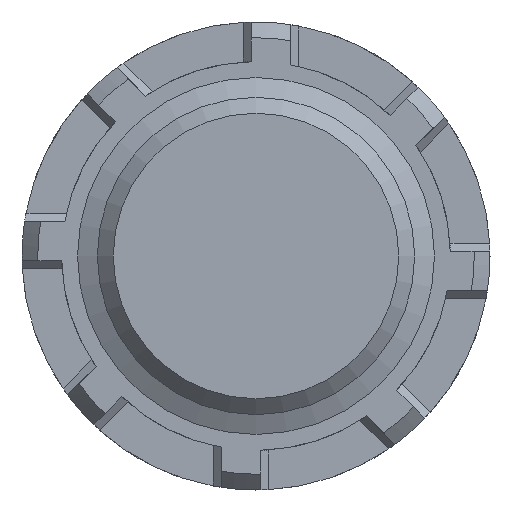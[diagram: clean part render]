
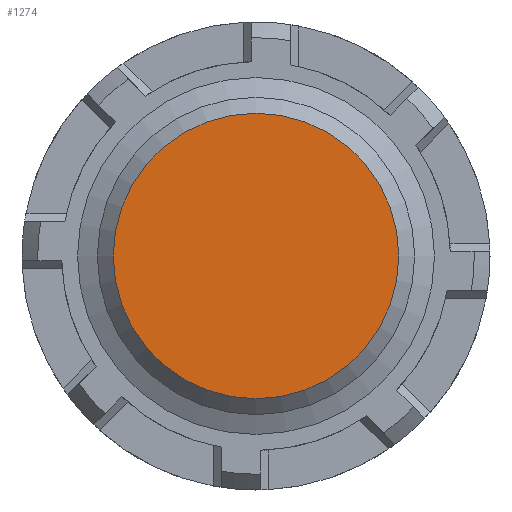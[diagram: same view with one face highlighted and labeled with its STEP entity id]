
A CAD part, front view. The second image highlights one B-rep face of the part: STEP entity #1274.
In plain terms, the highlighted planar face has unit normal (0, -1, 0).
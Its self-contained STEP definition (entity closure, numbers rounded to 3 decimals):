
#91=CIRCLE('',#1439,1.8);
#165=FACE_OUTER_BOUND('',#233,.T.);
#233=EDGE_LOOP('',(#1101));
#580=VERTEX_POINT('',#2238);
#765=EDGE_CURVE('',#580,#580,#91,.T.);
#1101=ORIENTED_EDGE('',*,*,#765,.F.);
#1213=PLANE('',#1442);
#1274=ADVANCED_FACE('',(#165),#1213,.T.);
#1439=AXIS2_PLACEMENT_3D('',#2239,#1820,#1821);
#1442=AXIS2_PLACEMENT_3D('',#2245,#1827,#1828);
#1820=DIRECTION('center_axis',(0.,1.,0.));
#1821=DIRECTION('ref_axis',(-1.,0.,0.));
#1827=DIRECTION('center_axis',(0.,-1.,0.));
#1828=DIRECTION('ref_axis',(0.,0.,-1.));
#2238=CARTESIAN_POINT('',(1.8,0.,0.));
#2239=CARTESIAN_POINT('Origin',(0.,0.,0.));
#2245=CARTESIAN_POINT('Origin',(0.,0.,0.));
